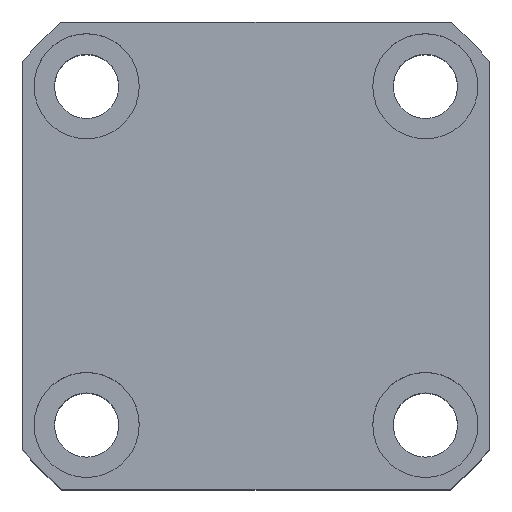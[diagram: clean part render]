
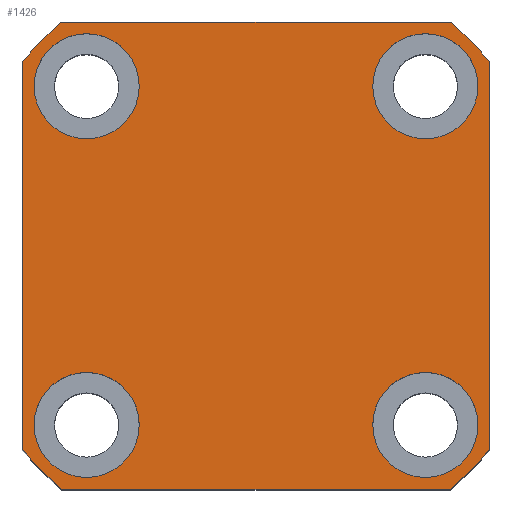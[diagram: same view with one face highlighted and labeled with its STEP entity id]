
A CAD part, top view. The second image highlights one B-rep face of the part: STEP entity #1426.
In plain terms, the highlighted planar face has unit normal (0, 0, 1).
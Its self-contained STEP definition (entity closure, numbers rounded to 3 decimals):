
#29 = CARTESIAN_POINT ( 'NONE',  ( -33.226, -40., 40. ) ) ;
#179 = CARTESIAN_POINT ( 'NONE',  ( 0., 0., 40. ) ) ;
#323 = CARTESIAN_POINT ( 'NONE',  ( -40., 33.226, 40. ) ) ;
#343 = DIRECTION ( 'NONE',  ( 1., 0., 0. ) ) ;
#527 = AXIS2_PLACEMENT_3D ( 'NONE', #6158, #4882, #7233 ) ;
#736 = CARTESIAN_POINT ( 'NONE',  ( -20., -29., 40. ) ) ;
#772 = VERTEX_POINT ( 'NONE', #8121 ) ;
#823 = CARTESIAN_POINT ( 'NONE',  ( 29., 29., 40. ) ) ;
#1095 = AXIS2_PLACEMENT_3D ( 'NONE', #9439, #1479, #1429 ) ;
#1305 = CARTESIAN_POINT ( 'NONE',  ( 0., 0., 40. ) ) ;
#1332 = CARTESIAN_POINT ( 'NONE',  ( 33.226, -40., 40. ) ) ;
#1426 = ADVANCED_FACE ( 'NONE', ( #6052, #9595, #3041, #12961, #3935 ), #2209, .T. ) ;
#1429 = DIRECTION ( 'NONE',  ( 1., 0., 0. ) ) ;
#1433 = CARTESIAN_POINT ( 'NONE',  ( 29., -29., 40. ) ) ;
#1479 = DIRECTION ( 'NONE',  ( 0., 0., 1. ) ) ;
#1761 = ORIENTED_EDGE ( 'NONE', *, *, #10372, .F. ) ;
#1853 = EDGE_CURVE ( 'NONE', #11232, #10898, #7634, .T. ) ;
#1975 = AXIS2_PLACEMENT_3D ( 'NONE', #14261, #3129, #13267 ) ;
#2209 = PLANE ( 'NONE',  #8142 ) ;
#2214 = CIRCLE ( 'NONE', #1095, 9. ) ;
#2255 = DIRECTION ( 'NONE',  ( 1., 0., 0. ) ) ;
#2413 = EDGE_LOOP ( 'NONE', ( #12147, #3646 ) ) ;
#2522 = CARTESIAN_POINT ( 'NONE',  ( -20., 29., 40. ) ) ;
#2600 = VERTEX_POINT ( 'NONE', #11111 ) ;
#2733 = ORIENTED_EDGE ( 'NONE', *, *, #8850, .T. ) ;
#2746 = VERTEX_POINT ( 'NONE', #7886 ) ;
#2866 = EDGE_CURVE ( 'NONE', #2746, #9645, #3377, .T. ) ;
#2881 = CARTESIAN_POINT ( 'NONE',  ( -33.226, -40., 40. ) ) ;
#3041 = FACE_BOUND ( 'NONE', #2413, .T. ) ;
#3078 = CARTESIAN_POINT ( 'NONE',  ( -29., 29., 40. ) ) ;
#3129 = DIRECTION ( 'NONE',  ( 0., 0., 1. ) ) ;
#3377 = LINE ( 'NONE', #5155, #9568 ) ;
#3610 = CARTESIAN_POINT ( 'NONE',  ( -29., -29., 40. ) ) ;
#3646 = ORIENTED_EDGE ( 'NONE', *, *, #13247, .F. ) ;
#3659 = AXIS2_PLACEMENT_3D ( 'NONE', #823, #10913, #12057 ) ;
#3708 = DIRECTION ( 'NONE',  ( 0., 0., 1. ) ) ;
#3929 = DIRECTION ( 'NONE',  ( -1., 0., 0. ) ) ;
#3935 = FACE_OUTER_BOUND ( 'NONE', #12316, .T. ) ;
#4066 = DIRECTION ( 'NONE',  ( 0., 0., 1. ) ) ;
#4079 = DIRECTION ( 'NONE',  ( 0., -1., 0. ) ) ;
#4137 = EDGE_LOOP ( 'NONE', ( #1761, #8032 ) ) ;
#4324 = ORIENTED_EDGE ( 'NONE', *, *, #10921, .T. ) ;
#4403 = DIRECTION ( 'NONE',  ( 1., 0., 0. ) ) ;
#4629 = DIRECTION ( 'NONE',  ( 0., 0., 1. ) ) ;
#4699 = ORIENTED_EDGE ( 'NONE', *, *, #10124, .F. ) ;
#4716 = ORIENTED_EDGE ( 'NONE', *, *, #11592, .F. ) ;
#4758 = CARTESIAN_POINT ( 'NONE',  ( 20., 29., 40. ) ) ;
#4810 = CIRCLE ( 'NONE', #5552, 9. ) ;
#4823 = CIRCLE ( 'NONE', #14582, 9. ) ;
#4832 = EDGE_CURVE ( 'NONE', #14040, #12996, #7761, .T. ) ;
#4882 = DIRECTION ( 'NONE',  ( 0., 0., 1. ) ) ;
#5155 = CARTESIAN_POINT ( 'NONE',  ( -33.226, 40., 40. ) ) ;
#5283 = CIRCLE ( 'NONE', #8951, 9. ) ;
#5309 = VERTEX_POINT ( 'NONE', #736 ) ;
#5405 = ORIENTED_EDGE ( 'NONE', *, *, #7622, .F. ) ;
#5552 = AXIS2_PLACEMENT_3D ( 'NONE', #6411, #12168, #12117 ) ;
#5561 = AXIS2_PLACEMENT_3D ( 'NONE', #1305, #5649, #2255 ) ;
#5649 = DIRECTION ( 'NONE',  ( 0., 0., 1. ) ) ;
#5708 = CIRCLE ( 'NONE', #5561, 52. ) ;
#5771 = CARTESIAN_POINT ( 'NONE',  ( 38., -29., 40. ) ) ;
#6045 = EDGE_CURVE ( 'NONE', #2600, #5309, #5283, .T. ) ;
#6052 = FACE_BOUND ( 'NONE', #13444, .T. ) ;
#6122 = VERTEX_POINT ( 'NONE', #12326 ) ;
#6158 = CARTESIAN_POINT ( 'NONE',  ( 0., 0., 40. ) ) ;
#6192 = CARTESIAN_POINT ( 'NONE',  ( -33.226, 40., 40. ) ) ;
#6411 = CARTESIAN_POINT ( 'NONE',  ( 29., 29., 40. ) ) ;
#6412 = ORIENTED_EDGE ( 'NONE', *, *, #13300, .T. ) ;
#6492 = AXIS2_PLACEMENT_3D ( 'NONE', #179, #4629, #12551 ) ;
#6631 = CARTESIAN_POINT ( 'NONE',  ( -29., -29., 40. ) ) ;
#6778 = VERTEX_POINT ( 'NONE', #323 ) ;
#6818 = CARTESIAN_POINT ( 'NONE',  ( 40., -33.226, 40. ) ) ;
#6864 = DIRECTION ( 'NONE',  ( 1., 0., 0. ) ) ;
#7135 = CIRCLE ( 'NONE', #527, 52. ) ;
#7233 = DIRECTION ( 'NONE',  ( 1., 0., 0. ) ) ;
#7371 = DIRECTION ( 'NONE',  ( 1., 0., 0. ) ) ;
#7410 = ORIENTED_EDGE ( 'NONE', *, *, #12443, .T. ) ;
#7540 = EDGE_LOOP ( 'NONE', ( #10345, #5405 ) ) ;
#7619 = LINE ( 'NONE', #12190, #10987 ) ;
#7622 = EDGE_CURVE ( 'NONE', #12996, #14040, #4810, .T. ) ;
#7634 = LINE ( 'NONE', #2881, #11877 ) ;
#7658 = CIRCLE ( 'NONE', #1975, 52. ) ;
#7761 = CIRCLE ( 'NONE', #3659, 9. ) ;
#7871 = CARTESIAN_POINT ( 'NONE',  ( 0., 0., 40. ) ) ;
#7886 = CARTESIAN_POINT ( 'NONE',  ( 33.226, 40., 40. ) ) ;
#8032 = ORIENTED_EDGE ( 'NONE', *, *, #6045, .F. ) ;
#8121 = CARTESIAN_POINT ( 'NONE',  ( 20., -29., 40. ) ) ;
#8142 = AXIS2_PLACEMENT_3D ( 'NONE', #7871, #10087, #11243 ) ;
#8192 = VERTEX_POINT ( 'NONE', #2522 ) ;
#8235 = CARTESIAN_POINT ( 'NONE',  ( 38., 29., 40. ) ) ;
#8403 = AXIS2_PLACEMENT_3D ( 'NONE', #3610, #3708, #6864 ) ;
#8503 = CARTESIAN_POINT ( 'NONE',  ( -40., -33.226, 40. ) ) ;
#8850 = EDGE_CURVE ( 'NONE', #10340, #12858, #7619, .T. ) ;
#8951 = AXIS2_PLACEMENT_3D ( 'NONE', #6631, #14506, #4403 ) ;
#9004 = DIRECTION ( 'NONE',  ( 1., 0., 0. ) ) ;
#9436 = LINE ( 'NONE', #13236, #12631 ) ;
#9439 = CARTESIAN_POINT ( 'NONE',  ( 29., -29., 40. ) ) ;
#9568 = VECTOR ( 'NONE', #3929, 1000. ) ;
#9595 = FACE_BOUND ( 'NONE', #4137, .T. ) ;
#9645 = VERTEX_POINT ( 'NONE', #6192 ) ;
#9954 = CIRCLE ( 'NONE', #12680, 9. ) ;
#10087 = DIRECTION ( 'NONE',  ( 0., 0., 1. ) ) ;
#10124 = EDGE_CURVE ( 'NONE', #772, #13934, #11173, .T. ) ;
#10283 = CARTESIAN_POINT ( 'NONE',  ( 40., 33.226, 40. ) ) ;
#10340 = VERTEX_POINT ( 'NONE', #6818 ) ;
#10345 = ORIENTED_EDGE ( 'NONE', *, *, #4832, .F. ) ;
#10372 = EDGE_CURVE ( 'NONE', #5309, #2600, #10458, .T. ) ;
#10458 = CIRCLE ( 'NONE', #8403, 9. ) ;
#10674 = ORIENTED_EDGE ( 'NONE', *, *, #1853, .T. ) ;
#10898 = VERTEX_POINT ( 'NONE', #1332 ) ;
#10913 = DIRECTION ( 'NONE',  ( 0., 0., 1. ) ) ;
#10921 = EDGE_CURVE ( 'NONE', #12858, #2746, #14361, .T. ) ;
#10987 = VECTOR ( 'NONE', #12242, 1000. ) ;
#11111 = CARTESIAN_POINT ( 'NONE',  ( -38., -29., 40. ) ) ;
#11173 = CIRCLE ( 'NONE', #11636, 9. ) ;
#11232 = VERTEX_POINT ( 'NONE', #29 ) ;
#11243 = DIRECTION ( 'NONE',  ( 1., 0., 0. ) ) ;
#11244 = CARTESIAN_POINT ( 'NONE',  ( -29., 29., 40. ) ) ;
#11592 = EDGE_CURVE ( 'NONE', #13934, #772, #2214, .T. ) ;
#11636 = AXIS2_PLACEMENT_3D ( 'NONE', #1433, #12904, #343 ) ;
#11877 = VECTOR ( 'NONE', #7371, 1000. ) ;
#12031 = DIRECTION ( 'NONE',  ( 1., 0., 0. ) ) ;
#12057 = DIRECTION ( 'NONE',  ( 1., 0., 0. ) ) ;
#12117 = DIRECTION ( 'NONE',  ( 1., 0., 0. ) ) ;
#12136 = VERTEX_POINT ( 'NONE', #8503 ) ;
#12147 = ORIENTED_EDGE ( 'NONE', *, *, #12763, .F. ) ;
#12168 = DIRECTION ( 'NONE',  ( 0., 0., 1. ) ) ;
#12190 = CARTESIAN_POINT ( 'NONE',  ( 40., 33.226, 40. ) ) ;
#12242 = DIRECTION ( 'NONE',  ( 0., 1., 0. ) ) ;
#12316 = EDGE_LOOP ( 'NONE', ( #6412, #14268, #7410, #10674, #13326, #2733, #4324, #13339 ) ) ;
#12326 = CARTESIAN_POINT ( 'NONE',  ( -38., 29., 40. ) ) ;
#12389 = DIRECTION ( 'NONE',  ( 0., 0., 1. ) ) ;
#12443 = EDGE_CURVE ( 'NONE', #12136, #11232, #7135, .T. ) ;
#12551 = DIRECTION ( 'NONE',  ( 1., 0., 0. ) ) ;
#12588 = EDGE_CURVE ( 'NONE', #6778, #12136, #9436, .T. ) ;
#12631 = VECTOR ( 'NONE', #4079, 1000. ) ;
#12680 = AXIS2_PLACEMENT_3D ( 'NONE', #11244, #12389, #9004 ) ;
#12748 = EDGE_CURVE ( 'NONE', #10898, #10340, #5708, .T. ) ;
#12763 = EDGE_CURVE ( 'NONE', #8192, #6122, #9954, .T. ) ;
#12858 = VERTEX_POINT ( 'NONE', #10283 ) ;
#12904 = DIRECTION ( 'NONE',  ( 0., 0., 1. ) ) ;
#12961 = FACE_BOUND ( 'NONE', #7540, .T. ) ;
#12996 = VERTEX_POINT ( 'NONE', #4758 ) ;
#13236 = CARTESIAN_POINT ( 'NONE',  ( -40., 33.226, 40. ) ) ;
#13247 = EDGE_CURVE ( 'NONE', #6122, #8192, #4823, .T. ) ;
#13267 = DIRECTION ( 'NONE',  ( 1., 0., 0. ) ) ;
#13300 = EDGE_CURVE ( 'NONE', #9645, #6778, #7658, .T. ) ;
#13326 = ORIENTED_EDGE ( 'NONE', *, *, #12748, .T. ) ;
#13339 = ORIENTED_EDGE ( 'NONE', *, *, #2866, .T. ) ;
#13444 = EDGE_LOOP ( 'NONE', ( #4716, #4699 ) ) ;
#13934 = VERTEX_POINT ( 'NONE', #5771 ) ;
#14040 = VERTEX_POINT ( 'NONE', #8235 ) ;
#14261 = CARTESIAN_POINT ( 'NONE',  ( 0., 0., 40. ) ) ;
#14268 = ORIENTED_EDGE ( 'NONE', *, *, #12588, .T. ) ;
#14361 = CIRCLE ( 'NONE', #6492, 52. ) ;
#14506 = DIRECTION ( 'NONE',  ( 0., 0., 1. ) ) ;
#14582 = AXIS2_PLACEMENT_3D ( 'NONE', #3078, #4066, #12031 ) ;
